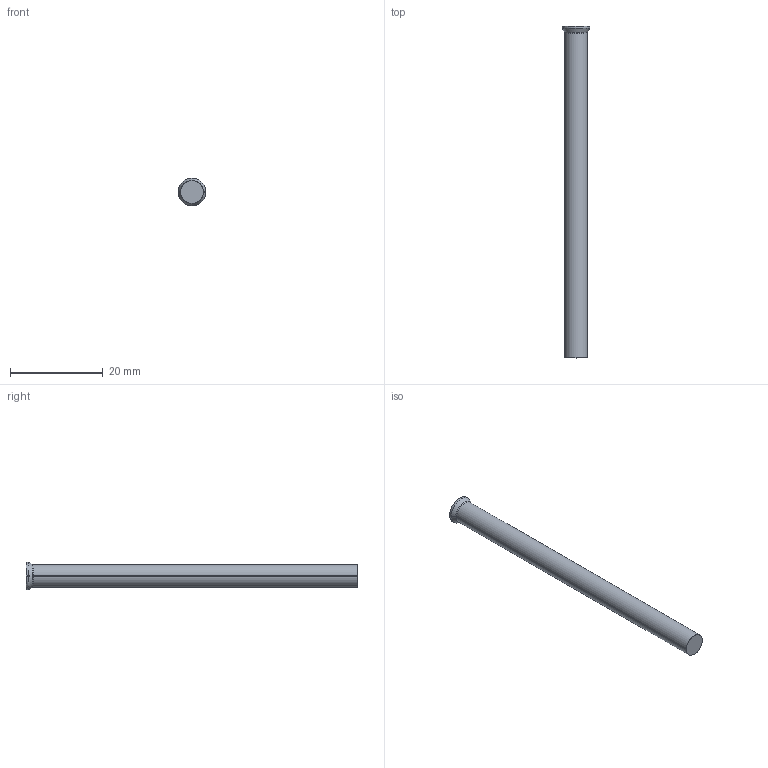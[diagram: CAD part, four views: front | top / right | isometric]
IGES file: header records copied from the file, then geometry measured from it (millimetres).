
Start section: SolidWorks IGES file using analytic representation for surfaces
Global section: file name: D:\Cleonir_arquivos\MT_15_07\Punções de Corte Tipo DA DIN 9861\PNDA04,9070H.igs; native system: SolidWorks 2013; preprocessor: SolidWorks 2013; author: Cleonir; date: 130731.205159; units: millimetre
Bounding box: 6 x 71.5 x 6 mm (x, y, z)
Surface area: 1153.7 mm2 (no closed solid volume)
Topology: 0 solids, 0 shells, 315 faces, 1906 edges, 1906 vertices
Faces by surface type: bspline 301, revolution 14
